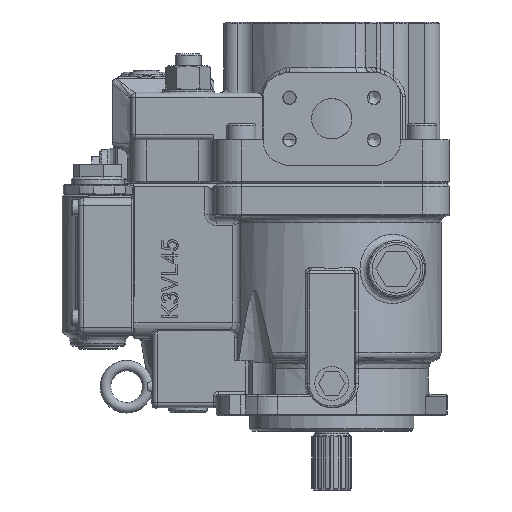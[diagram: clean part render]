
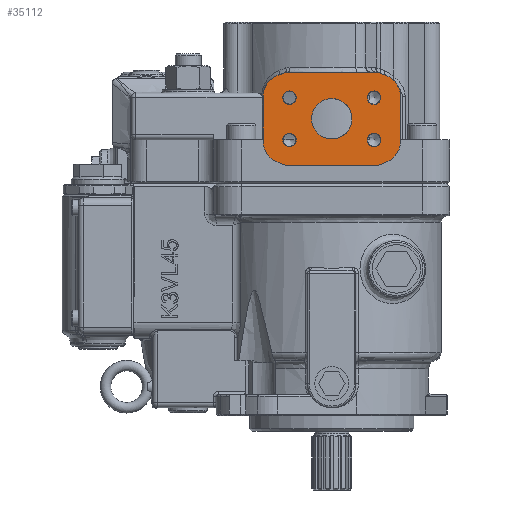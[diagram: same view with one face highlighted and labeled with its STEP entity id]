
A CAD part, left-side view. The second image highlights one B-rep face of the part: STEP entity #35112.
In plain terms, the highlighted planar face has unit normal (-1, 0, 0).
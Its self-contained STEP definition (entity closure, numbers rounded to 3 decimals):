
#34914=CARTESIAN_POINT('',(-80.,0.,193.7));
#34915=DIRECTION('',(1.0,0.0,0.0));
#34916=DIRECTION('',(0.0,0.0,-1.0));
#34917=AXIS2_PLACEMENT_3D('',#34914,#34915,#34916);
#34918=PLANE('',#34917);
#34919=CARTESIAN_POINT('',(-80.0,28.828,222.398));
#34920=VERTEX_POINT('',#34919);
#34921=CARTESIAN_POINT('',(-80.,27.118,222.7));
#34922=VERTEX_POINT('',#34921);
#34923=CARTESIAN_POINT('',(-80.0,27.118,217.7));
#34924=DIRECTION('',(1.,0.,0.));
#34925=DIRECTION('',(0.,0.174,0.985));
#34926=AXIS2_PLACEMENT_3D('',#34923,#34924,#34925);
#34927=CIRCLE('',#34926,5.);
#34928=EDGE_CURVE('',#34920,#34922,#34927,.T.);
#34929=ORIENTED_EDGE('',*,*,#34928,.F.);
#34930=CARTESIAN_POINT('',(-80.0,33.288,220.775));
#34931=VERTEX_POINT('',#34930);
#34932=CARTESIAN_POINT('',(-80.0,28.828,222.398));
#34933=DIRECTION('',(0.0,0.94,-0.342));
#34934=VECTOR('',#34933,4.746);
#34935=LINE('',#34932,#34934);
#34936=EDGE_CURVE('',#34920,#34931,#34935,.T.);
#34937=ORIENTED_EDGE('',*,*,#34936,.T.);
#34938=CARTESIAN_POINT('',(-80.0,42.5,207.62));
#34939=VERTEX_POINT('',#34938);
#34940=CARTESIAN_POINT('',(-80.0,28.5,207.62));
#34941=DIRECTION('',(1.0,0.,0.));
#34942=DIRECTION('',(0.,0.819,0.574));
#34943=AXIS2_PLACEMENT_3D('',#34940,#34941,#34942);
#34944=CIRCLE('',#34943,14.);
#34945=EDGE_CURVE('',#34939,#34931,#34944,.T.);
#34946=ORIENTED_EDGE('',*,*,#34945,.F.);
#34947=CARTESIAN_POINT('',(-80.0,42.5,179.78));
#34948=VERTEX_POINT('',#34947);
#34949=CARTESIAN_POINT('',(-80.0,42.5,207.62));
#34950=DIRECTION('',(0.0,0.0,-1.0));
#34951=VECTOR('',#34950,27.839);
#34952=LINE('',#34949,#34951);
#34953=EDGE_CURVE('',#34939,#34948,#34952,.T.);
#34954=ORIENTED_EDGE('',*,*,#34953,.T.);
#34955=CARTESIAN_POINT('',(-80.0,33.288,166.625));
#34956=VERTEX_POINT('',#34955);
#34957=CARTESIAN_POINT('',(-80.0,28.5,179.78));
#34958=DIRECTION('',(1.0,0.,0.));
#34959=DIRECTION('',(0.,0.819,-0.574));
#34960=AXIS2_PLACEMENT_3D('',#34957,#34958,#34959);
#34961=CIRCLE('',#34960,14.0);
#34962=EDGE_CURVE('',#34956,#34948,#34961,.T.);
#34963=ORIENTED_EDGE('',*,*,#34962,.F.);
#34964=CARTESIAN_POINT('',(-80.0,28.828,165.002));
#34965=VERTEX_POINT('',#34964);
#34966=CARTESIAN_POINT('',(-80.0,33.288,166.625));
#34967=DIRECTION('',(0.0,-0.94,-0.342));
#34968=VECTOR('',#34967,4.746);
#34969=LINE('',#34966,#34968);
#34970=EDGE_CURVE('',#34956,#34965,#34969,.T.);
#34971=ORIENTED_EDGE('',*,*,#34970,.T.);
#34972=CARTESIAN_POINT('',(-80.,27.118,164.7));
#34973=VERTEX_POINT('',#34972);
#34974=CARTESIAN_POINT('',(-80.0,27.118,169.7));
#34975=DIRECTION('',(1.,0.,0.));
#34976=DIRECTION('',(0.,0.174,-0.985));
#34977=AXIS2_PLACEMENT_3D('',#34974,#34975,#34976);
#34978=CIRCLE('',#34977,5.);
#34979=EDGE_CURVE('',#34973,#34965,#34978,.T.);
#34980=ORIENTED_EDGE('',*,*,#34979,.F.);
#34981=CARTESIAN_POINT('',(-80.,-27.118,164.7));
#34982=VERTEX_POINT('',#34981);
#34983=CARTESIAN_POINT('',(-80.,27.118,164.7));
#34984=DIRECTION('',(0.0,-1.0,0.0));
#34985=VECTOR('',#34984,54.237);
#34986=LINE('',#34983,#34985);
#34987=EDGE_CURVE('',#34973,#34982,#34986,.T.);
#34988=ORIENTED_EDGE('',*,*,#34987,.T.);
#34989=CARTESIAN_POINT('',(-80.,-28.828,165.002));
#34990=VERTEX_POINT('',#34989);
#34991=CARTESIAN_POINT('',(-80.,-27.118,169.7));
#34992=DIRECTION('',(1.,0.,0.));
#34993=DIRECTION('',(0.,-0.174,-0.985));
#34994=AXIS2_PLACEMENT_3D('',#34991,#34992,#34993);
#34995=CIRCLE('',#34994,5.);
#34996=EDGE_CURVE('',#34990,#34982,#34995,.T.);
#34997=ORIENTED_EDGE('',*,*,#34996,.F.);
#34998=CARTESIAN_POINT('',(-80.,-33.288,166.625));
#34999=VERTEX_POINT('',#34998);
#35000=CARTESIAN_POINT('',(-80.,-28.828,165.002));
#35001=DIRECTION('',(0.0,-0.94,0.342));
#35002=VECTOR('',#35001,4.746);
#35003=LINE('',#35000,#35002);
#35004=EDGE_CURVE('',#34990,#34999,#35003,.T.);
#35005=ORIENTED_EDGE('',*,*,#35004,.T.);
#35006=CARTESIAN_POINT('',(-80.,-42.5,179.78));
#35007=VERTEX_POINT('',#35006);
#35008=CARTESIAN_POINT('',(-80.,-28.5,179.78));
#35009=DIRECTION('',(1.,0.,0.));
#35010=DIRECTION('',(0.,-0.819,-0.574));
#35011=AXIS2_PLACEMENT_3D('',#35008,#35009,#35010);
#35012=CIRCLE('',#35011,14.0);
#35013=EDGE_CURVE('',#35007,#34999,#35012,.T.);
#35014=ORIENTED_EDGE('',*,*,#35013,.F.);
#35015=CARTESIAN_POINT('',(-80.,-42.5,207.62));
#35016=VERTEX_POINT('',#35015);
#35017=CARTESIAN_POINT('',(-80.,-42.5,179.78));
#35018=DIRECTION('',(0.0,0.0,1.0));
#35019=VECTOR('',#35018,27.839);
#35020=LINE('',#35017,#35019);
#35021=EDGE_CURVE('',#35007,#35016,#35020,.T.);
#35022=ORIENTED_EDGE('',*,*,#35021,.T.);
#35023=CARTESIAN_POINT('',(-80.,-33.288,220.775));
#35024=VERTEX_POINT('',#35023);
#35025=CARTESIAN_POINT('',(-80.,-28.5,207.62));
#35026=DIRECTION('',(1.,0.,0.));
#35027=DIRECTION('',(0.,-0.819,0.574));
#35028=AXIS2_PLACEMENT_3D('',#35025,#35026,#35027);
#35029=CIRCLE('',#35028,14.0);
#35030=EDGE_CURVE('',#35024,#35016,#35029,.T.);
#35031=ORIENTED_EDGE('',*,*,#35030,.F.);
#35032=CARTESIAN_POINT('',(-80.,-28.828,222.398));
#35033=VERTEX_POINT('',#35032);
#35034=CARTESIAN_POINT('',(-80.,-33.288,220.775));
#35035=DIRECTION('',(0.0,0.94,0.342));
#35036=VECTOR('',#35035,4.746);
#35037=LINE('',#35034,#35036);
#35038=EDGE_CURVE('',#35024,#35033,#35037,.T.);
#35039=ORIENTED_EDGE('',*,*,#35038,.T.);
#35040=CARTESIAN_POINT('',(-80.,-27.118,222.7));
#35041=VERTEX_POINT('',#35040);
#35042=CARTESIAN_POINT('',(-80.,-27.118,217.7));
#35043=DIRECTION('',(1.,0.,0.));
#35044=DIRECTION('',(0.,-0.174,0.985));
#35045=AXIS2_PLACEMENT_3D('',#35042,#35043,#35044);
#35046=CIRCLE('',#35045,5.);
#35047=EDGE_CURVE('',#35041,#35033,#35046,.T.);
#35048=ORIENTED_EDGE('',*,*,#35047,.F.);
#35049=CARTESIAN_POINT('',(-80.,-27.118,222.7));
#35050=DIRECTION('',(0.0,1.0,0.0));
#35051=VECTOR('',#35050,54.237);
#35052=LINE('',#35049,#35051);
#35053=EDGE_CURVE('',#35041,#34922,#35052,.T.);
#35054=ORIENTED_EDGE('',*,*,#35053,.T.);
#35055=EDGE_LOOP('',(#34929,#34937,#34946,#34954,#34963,#34971,#34980,#34988,#34997,#35005,#35014,#35022,#35031,#35039,#35048,#35054));
#35056=FACE_OUTER_BOUND('',#35055,.T.);
#35057=CARTESIAN_POINT('',(-80.,-26.2,210.988));
#35058=VERTEX_POINT('',#35057);
#35059=CARTESIAN_POINT('',(-80.,-26.2,206.8));
#35060=DIRECTION('',(1.0,0.0,0.0));
#35061=DIRECTION('',(0.0,0.0,1.0));
#35062=AXIS2_PLACEMENT_3D('',#35059,#35060,#35061);
#35063=CIRCLE('',#35062,4.188);
#35064=EDGE_CURVE('',#35058,#35058,#35063,.T.);
#35065=ORIENTED_EDGE('',*,*,#35064,.T.);
#35066=EDGE_LOOP('',(#35065));
#35067=FACE_BOUND('',#35066,.T.);
#35068=CARTESIAN_POINT('',(-80.,26.2,184.788));
#35069=VERTEX_POINT('',#35068);
#35070=CARTESIAN_POINT('',(-80.,26.2,180.6));
#35071=DIRECTION('',(1.0,0.0,0.0));
#35072=DIRECTION('',(0.0,0.0,1.0));
#35073=AXIS2_PLACEMENT_3D('',#35070,#35071,#35072);
#35074=CIRCLE('',#35073,4.188);
#35075=EDGE_CURVE('',#35069,#35069,#35074,.T.);
#35076=ORIENTED_EDGE('',*,*,#35075,.T.);
#35077=EDGE_LOOP('',(#35076));
#35078=FACE_BOUND('',#35077,.T.);
#35079=CARTESIAN_POINT('',(-80.,26.2,210.988));
#35080=VERTEX_POINT('',#35079);
#35081=CARTESIAN_POINT('',(-80.,26.2,206.8));
#35082=DIRECTION('',(1.0,0.0,0.0));
#35083=DIRECTION('',(0.0,0.0,1.0));
#35084=AXIS2_PLACEMENT_3D('',#35081,#35082,#35083);
#35085=CIRCLE('',#35084,4.188);
#35086=EDGE_CURVE('',#35080,#35080,#35085,.T.);
#35087=ORIENTED_EDGE('',*,*,#35086,.T.);
#35088=EDGE_LOOP('',(#35087));
#35089=FACE_BOUND('',#35088,.T.);
#35090=CARTESIAN_POINT('',(-80.,-26.2,184.788));
#35091=VERTEX_POINT('',#35090);
#35092=CARTESIAN_POINT('',(-80.,-26.2,180.6));
#35093=DIRECTION('',(1.0,0.0,0.0));
#35094=DIRECTION('',(0.0,0.0,1.0));
#35095=AXIS2_PLACEMENT_3D('',#35092,#35093,#35094);
#35096=CIRCLE('',#35095,4.188);
#35097=EDGE_CURVE('',#35091,#35091,#35096,.T.);
#35098=ORIENTED_EDGE('',*,*,#35097,.T.);
#35099=EDGE_LOOP('',(#35098));
#35100=FACE_BOUND('',#35099,.T.);
#35101=CARTESIAN_POINT('',(-80.,-12.5,193.7));
#35102=VERTEX_POINT('',#35101);
#35103=CARTESIAN_POINT('',(-80.,0.,193.7));
#35104=DIRECTION('',(1.0,0.0,0.0));
#35105=DIRECTION('',(0.0,1.0,0.0));
#35106=AXIS2_PLACEMENT_3D('',#35103,#35104,#35105);
#35107=CIRCLE('',#35106,12.5);
#35108=EDGE_CURVE('',#35102,#35102,#35107,.T.);
#35109=ORIENTED_EDGE('',*,*,#35108,.T.);
#35110=EDGE_LOOP('',(#35109));
#35111=FACE_BOUND('',#35110,.T.);
#35112=ADVANCED_FACE('',(#35056,#35067,#35078,#35089,#35100,#35111),#34918,.F.);
